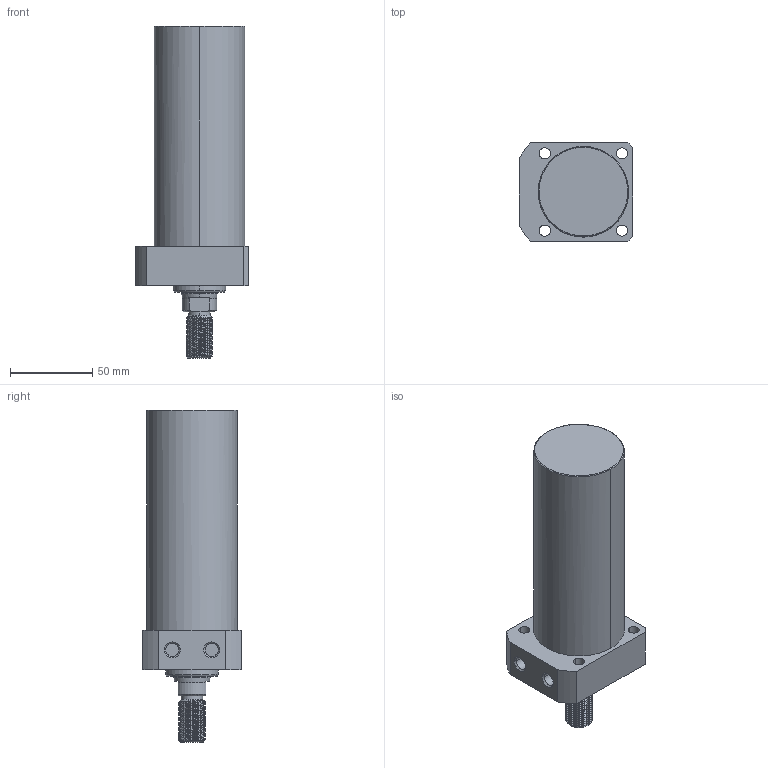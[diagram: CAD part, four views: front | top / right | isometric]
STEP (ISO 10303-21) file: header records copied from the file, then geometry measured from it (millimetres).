
FILE_DESCRIPTION((' '),'2;1');
FILE_NAME( 'TLLR-055CT-105.STEP.stp', '2025-10-24T16:34:48', (' '), ('--- Datakit www.datakit.com---'), ' Datakit CrossCadWare V2024.1 Dec 21 2023', 'Mastercam 2025', ' ');
FILE_SCHEMA(('AUTOMOTIVE_DESIGN { 1 0 10303 214 1 1 1 1 }'));
Length unit declared in the file: millimetre
Products named in the file (1): TLLR-055CT-105
Bounding box: 69 x 60 x 202 mm (x, y, z)
Volume: 423177.8 mm3; surface area: 42874.6 mm2
Topology: 1 solids, 1 shells, 101 faces, 358 edges, 267 vertices
Faces by surface type: cylinder 61, plane 20, cone 16, bspline 2, torus 2
Entity records: 10914 total; most frequent: CARTESIAN_POINT 7818, ORIENTED_EDGE 716, DIRECTION 520, EDGE_CURVE 358, VERTEX_POINT 267, AXIS2_PLACEMENT_3D 211, B_SPLINE_CURVE_WITH_KNOTS 149, EDGE_LOOP 117
